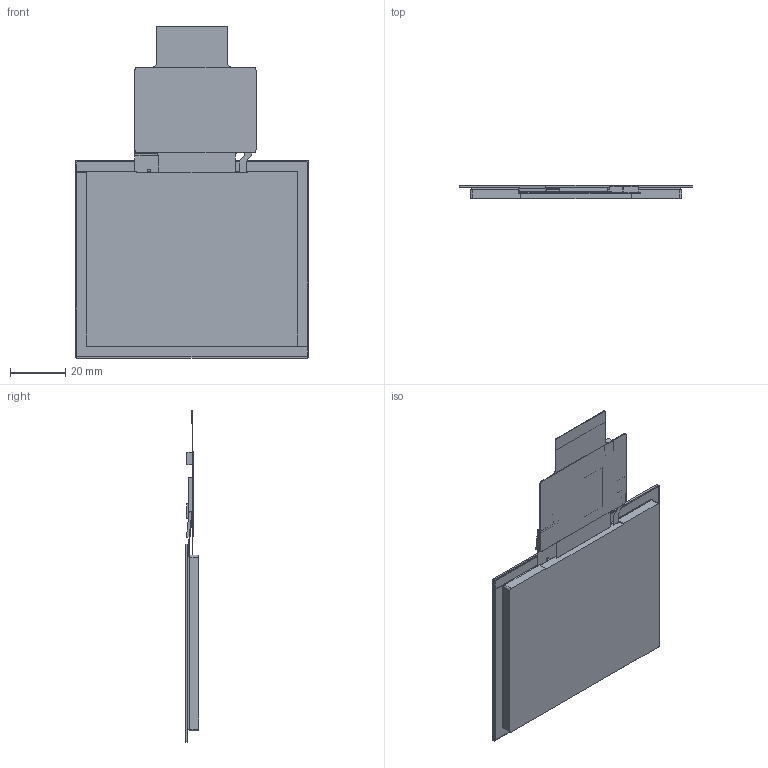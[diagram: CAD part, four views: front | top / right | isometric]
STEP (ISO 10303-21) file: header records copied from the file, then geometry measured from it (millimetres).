
FILE_DESCRIPTION((''),'2;1');
FILE_NAME('3D-DMG32240F035_01WTCZ01','2024-09-11T',('Administrator'),(''),'PRO/ENGINEER BY PARAMETRIC TECHNOLOGY CORPORATION, 2008380','PRO/ENGINEER BY PARAMETRIC TECHNOLOGY CORPORATION, 2008380','');
FILE_SCHEMA(('CONFIG_CONTROL_DESIGN'));
Length unit declared in the file: millimetre
Products named in the file (1): 3D-DMG32240F035_01WTCZ01
Bounding box: 84.84 x 4.88 x 120.55 mm (x, y, z)
Volume: 24504.8 mm3; surface area: 26941.2 mm2
Topology: 1 solids, 1 shells, 154 faces, 1152 edges, 1156 vertices
Faces by surface type: plane 121, cylinder 33
Entity records: 12375 total; most frequent: DIRECTION 1781, CARTESIAN_POINT 1622, ORIENTED_EDGE 888, PRESENTATION_STYLE_ASSIGNMENT 836, STYLED_ITEM 836, VECTOR 825, LINE 825, CURVE_STYLE 773
